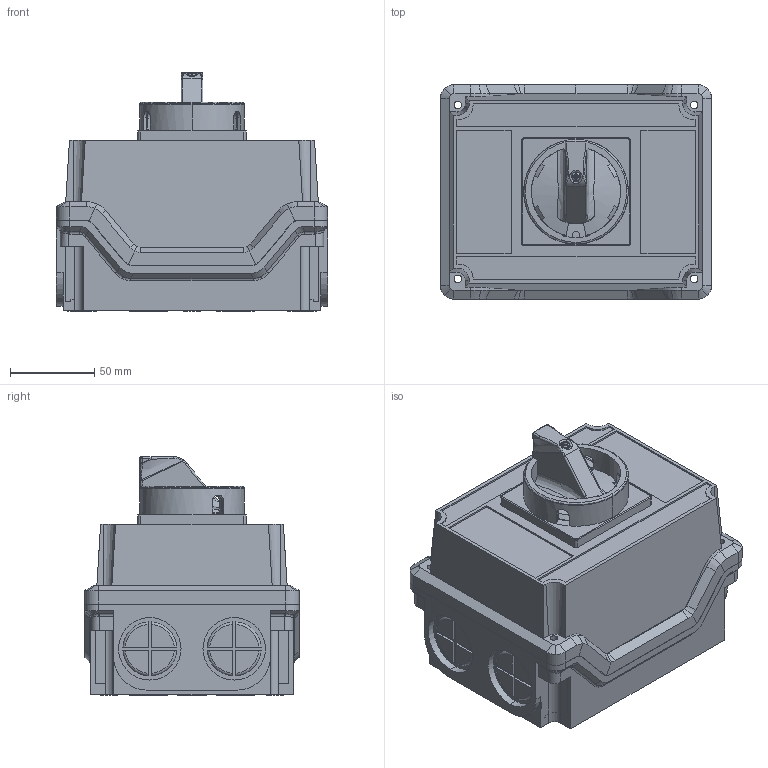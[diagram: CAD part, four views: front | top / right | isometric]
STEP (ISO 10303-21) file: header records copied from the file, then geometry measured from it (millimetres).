
FILE_DESCRIPTION (( 'STEP AP214' ), '1' );
FILE_NAME ('4G40,63,80-XXXX-PK-S6,S25 2ê.STEP', '2023-02-15T10:34:02', ( '' ), ( '' ), 'SwSTEP 2.0', 'SolidWorks 2018', '' );
FILE_SCHEMA (( 'AUTOMOTIVE_DESIGN' ));
Length unit declared in the file: millimetre
Products named in the file (1): 4G40,63,80-XXXX-PK-S6,S25 2ê
Bounding box: 160.6 x 127 x 141.3 mm (x, y, z)
Volume: 395877 mm3; surface area: 240051.6 mm2
Topology: 5 solids, 5 shells, 1025 faces, 2756 edges, 1773 vertices
Faces by surface type: plane 484, cylinder 402, bspline 47, cone 44, torus 35, sphere 13
Entity records: 54159 total; most frequent: CARTESIAN_POINT 17147, ORIENTED_EDGE 5498, DIRECTION 5320, EDGE_CURVE 2749, AXIS2_PLACEMENT_3D 1909, VERTEX_POINT 1773, VECTOR 1502, LINE 1502
